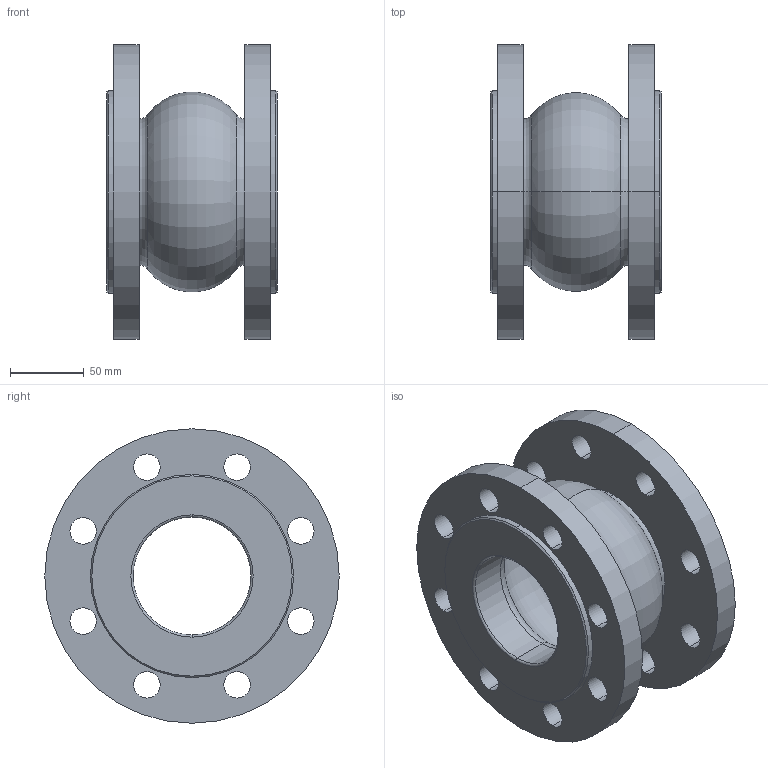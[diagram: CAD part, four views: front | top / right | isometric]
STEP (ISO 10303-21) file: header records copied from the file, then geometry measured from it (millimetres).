
FILE_DESCRIPTION (( 'STEP AP203' ), '1' );
FILE_NAME ('F8_PN16_DN080.STEP', '2012-10-31T08:44:26', ( 'luca.saino' ), ( 'Hewlett-Packard Company' ), 'SwSTEP 2.0', 'SolidWorks 2012', '' );
FILE_SCHEMA (( 'CONFIG_CONTROL_DESIGN' ));
Length unit declared in the file: millimetre
Products named in the file (1): F8_PN16_DN080
Bounding box: 116 x 200 x 200 mm (x, y, z)
Volume: 1186157.9 mm3; surface area: 202845.6 mm2
Topology: 1 solids, 1 shells, 74 faces, 180 edges, 112 vertices
Faces by surface type: cylinder 44, torus 16, cone 8, plane 6
Entity records: 2365 total; most frequent: DIRECTION 458, CARTESIAN_POINT 367, ORIENTED_EDGE 360, AXIS2_PLACEMENT_3D 203, EDGE_CURVE 180, CIRCLE 128, EDGE_LOOP 112, VERTEX_POINT 112
